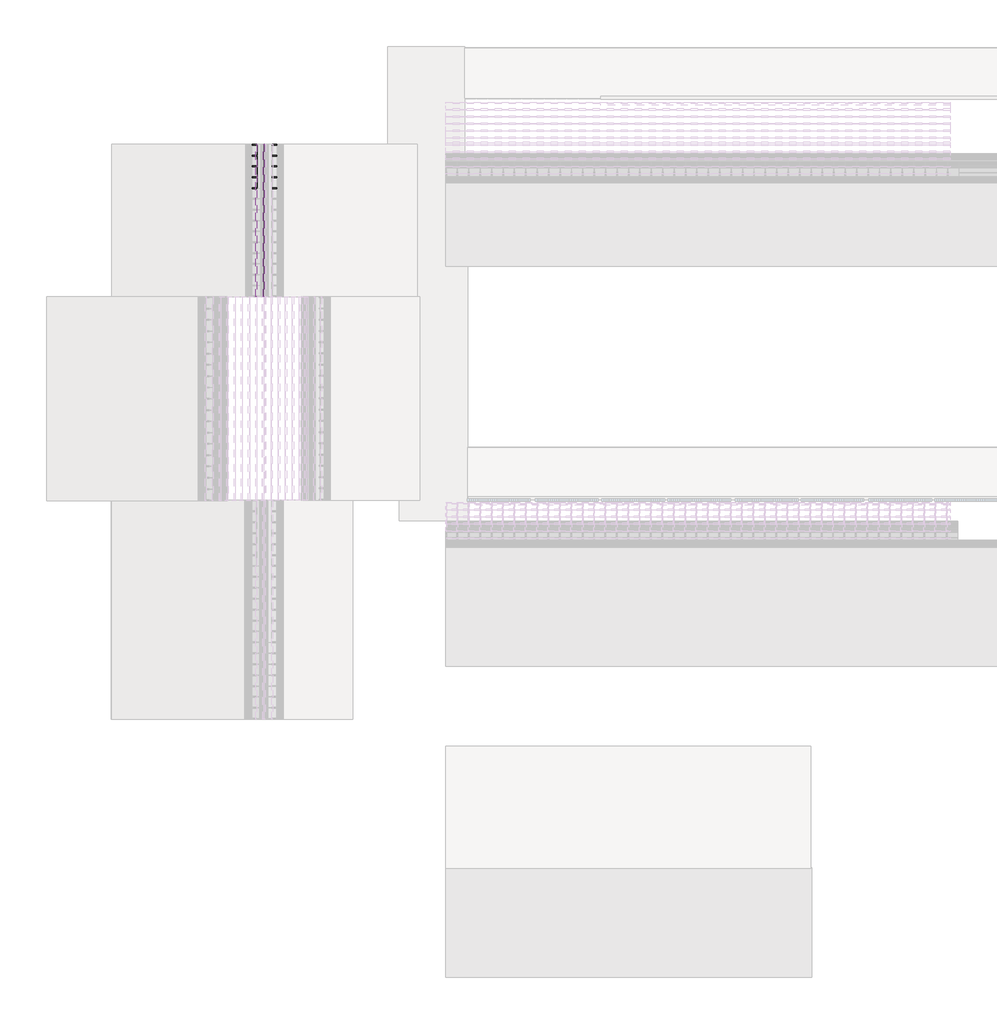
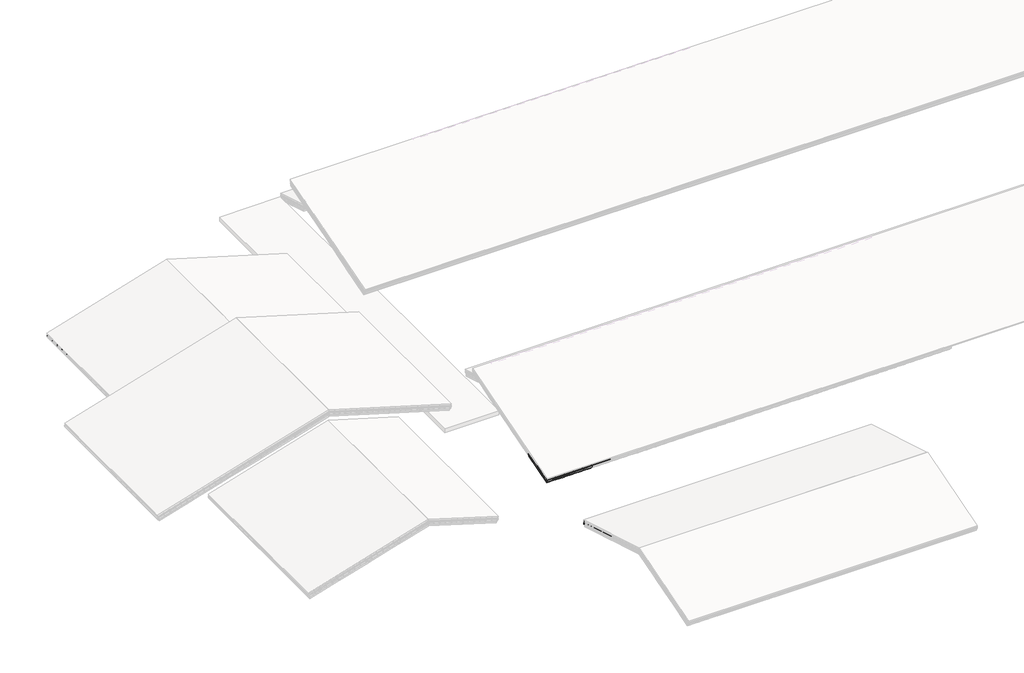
# One storey, part 6 of 57: 77 members, 42 plates.
"""IFC4 building model written with IfcOpenShell, lengths in millimetres."""

from ifc_helpers import new_model, si_unit, origin, place, context, project, spatial, transform, mapped, element, save
from components import rectangular_mullion_59984080, rectangular_mullion_71c73389, rectangular_mullion_e3e5c75d, rectangular_mullion_4162b89b, rectangular_mullion_883ae41b, rectangular_mullion_77964d67, rectangular_mullion_b55daf23, rectangular_mullion_698b6ac7, rectangular_mullion_f617a3aa, rectangular_mullion_61a0b4b4, rectangular_mullion_caibro_e4384bba, rectangular_mullion_caibro_2ce6d6ec, rectangular_mullion_caibro_22b168a6, rectangular_mullion_caibro_469f6316, rectangular_mullion_caibro_ed0dafb1, rectangular_mullion_caibro_0a25a9c4, rectangular_mullion_caibro_d90884e6, rectangular_mullion_caibro_a2a3702c, empty_system_panel_vazio_178faf58, empty_system_panel_vazio_2c78850d, empty_system_panel_vazio_172ca776, empty_system_panel_vazio_8cae14d4, empty_system_panel_vazio_6414fa12

model = new_model("IFC4")

# Units and contexts
model_context = context("Model", 3, world=origin())
ifc_project = project(units=[si_unit("LENGTHUNIT", "METRE", prefix="MILLI")], contexts=[model_context])

# Site, building, storey
site = spatial("IfcSite", under=ifc_project)
building = spatial("IfcBuilding", under=site)
storey = spatial("IfcBuildingStorey", under=building, Name="Nível 2", Elevation=4100.0)

# Members
placement = place(None, origin())
rectangular_mullion_shape = rectangular_mullion_59984080(model_context)
element("IfcMember", 1, ObjectType="Rectangular Mullion : Ripa", at=placement, inside=storey, context=model_context, shape_type="MappedRepresentation", body=[
    mapped(rectangular_mullion_shape, transform((1776.6806519, 7422.2287521, 3376.7178042), x_axis=(0.0, 0.9578262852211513, 0.2873478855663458), y_axis=(0.0, 0.2873478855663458, -0.9578262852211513), z_axis=(-1.0, 0.0, 0.0))),
])
element("IfcMember", 2, ObjectType="Rectangular Mullion : Ripa", at=placement, inside=storey, context=model_context, shape_type="MappedRepresentation", body=[
    mapped(rectangular_mullion_shape, transform((2373.7354086, 7422.2287521, 3376.7178042), x_axis=(0.0, 0.9578262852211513, 0.2873478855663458), y_axis=(0.0, 0.2873478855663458, -0.9578262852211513), z_axis=(-1.0, 0.0, 0.0))),
])
element("IfcMember", 3, ObjectType="Rectangular Mullion : Ripa", at=placement, inside=storey, context=model_context, shape_type="MappedRepresentation", body=[
    mapped(rectangular_mullion_shape, transform((2970.790165, 7422.2287521, 3376.7178042), x_axis=(0.0, 0.9578262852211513, 0.2873478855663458), y_axis=(0.0, 0.2873478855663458, -0.9578262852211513), z_axis=(-1.0, 0.0, 0.0))),
])
element("IfcMember", 4, ObjectType="Rectangular Mullion : Ripa", at=placement, inside=storey, context=model_context, shape_type="MappedRepresentation", body=[
    mapped(rectangular_mullion_shape, transform((3567.8449214, 7422.2287521, 3376.7178042), x_axis=(0.0, 0.9578262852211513, 0.2873478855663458), y_axis=(0.0, 0.2873478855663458, -0.9578262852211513), z_axis=(-1.0, 0.0, 0.0))),
])
element("IfcMember", 5, ObjectType="Rectangular Mullion : Ripa", at=placement, inside=storey, context=model_context, shape_type="MappedRepresentation", body=[
    mapped(rectangular_mullion_shape, transform((4164.8996779, 7422.2287521, 3376.7178042), x_axis=(0.0, 0.9578262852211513, 0.2873478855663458), y_axis=(0.0, 0.2873478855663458, -0.9578262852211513), z_axis=(-1.0, 0.0, 0.0))),
])
element("IfcMember", 6, ObjectType="Rectangular Mullion : Ripa", at=placement, inside=storey, context=model_context, shape_type="MappedRepresentation", body=[
    mapped(rectangular_mullion_shape, transform((4761.9544343, 7422.2287521, 3376.7178042), x_axis=(0.0, 0.9578262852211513, 0.2873478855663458), y_axis=(0.0, 0.2873478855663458, -0.9578262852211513), z_axis=(-1.0, 0.0, 0.0))),
])
element("IfcMember", 7, ObjectType="Rectangular Mullion : Ripa", at=placement, inside=storey, context=model_context, shape_type="MappedRepresentation", body=[
    mapped(rectangular_mullion_shape, transform((1776.6806519, 7792.4060108, 3487.7709818), x_axis=(0.0, 0.9578262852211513, 0.2873478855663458), y_axis=(0.0, 0.2873478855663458, -0.9578262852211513), z_axis=(-1.0, 0.0, 0.0))),
])
element("IfcMember", 8, ObjectType="Rectangular Mullion : Ripa", at=placement, inside=storey, context=model_context, shape_type="MappedRepresentation", body=[
    mapped(rectangular_mullion_shape, transform((2373.7354086, 7792.4060108, 3487.7709818), x_axis=(0.0, 0.9578262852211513, 0.2873478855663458), y_axis=(0.0, 0.2873478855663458, -0.9578262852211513), z_axis=(-1.0, 0.0, 0.0))),
])
element("IfcMember", 9, ObjectType="Rectangular Mullion : Ripa", at=placement, inside=storey, context=model_context, shape_type="MappedRepresentation", body=[
    mapped(rectangular_mullion_shape, transform((2970.790165, 7792.4060108, 3487.7709818), x_axis=(0.0, 0.9578262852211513, 0.2873478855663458), y_axis=(0.0, 0.2873478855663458, -0.9578262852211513), z_axis=(-1.0, 0.0, 0.0))),
])
element("IfcMember", 10, ObjectType="Rectangular Mullion : Ripa", at=placement, inside=storey, context=model_context, shape_type="MappedRepresentation", body=[
    mapped(rectangular_mullion_shape, transform((3567.8449214, 7792.4060108, 3487.7709818), x_axis=(0.0, 0.9578262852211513, 0.2873478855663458), y_axis=(0.0, 0.2873478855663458, -0.9578262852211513), z_axis=(-1.0, 0.0, 0.0))),
])
element("IfcMember", 11, ObjectType="Rectangular Mullion : Ripa", at=placement, inside=storey, context=model_context, shape_type="MappedRepresentation", body=[
    mapped(rectangular_mullion_shape, transform((4164.8996779, 7792.4060108, 3487.7709818), x_axis=(0.0, 0.9578262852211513, 0.2873478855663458), y_axis=(0.0, 0.2873478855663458, -0.9578262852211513), z_axis=(-1.0, 0.0, 0.0))),
])
element("IfcMember", 12, ObjectType="Rectangular Mullion : Ripa", at=placement, inside=storey, context=model_context, shape_type="MappedRepresentation", body=[
    mapped(rectangular_mullion_shape, transform((4761.9544343, 7792.4060108, 3487.7709818), x_axis=(0.0, 0.9578262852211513, 0.2873478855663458), y_axis=(0.0, 0.2873478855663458, -0.9578262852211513), z_axis=(-1.0, 0.0, 0.0))),
])
rectangular_mullion_2_shape = rectangular_mullion_71c73389(model_context)
element("IfcMember", 13, ObjectType="Rectangular Mullion : Ripa", at=placement, inside=storey, context=model_context, shape_type="MappedRepresentation", body=[
    mapped(rectangular_mullion_2_shape, transform((2348.7354086, 7004.1601792, 3251.2972323), x_axis=(0.0, -0.9578262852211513, -0.2873478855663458), y_axis=(0.0, 0.2873478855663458, -0.9578262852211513), z_axis=(1.0, 0.0, 0.0))),
])
rectangular_mullion_3_shape = rectangular_mullion_e3e5c75d(model_context)
element("IfcMember", 14, ObjectType="Rectangular Mullion : Ripa", at=placement, inside=storey, context=model_context, shape_type="MappedRepresentation", body=[
    mapped(rectangular_mullion_3_shape, transform((2945.790165, 7004.1601792, 3251.2972323), x_axis=(0.0, -0.9578262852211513, -0.2873478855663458), y_axis=(0.0, 0.2873478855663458, -0.9578262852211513), z_axis=(1.0, 0.0, 0.0))),
])
element("IfcMember", 15, ObjectType="Rectangular Mullion : Ripa", at=placement, inside=storey, context=model_context, shape_type="MappedRepresentation", body=[
    mapped(rectangular_mullion_3_shape, transform((3542.8449214, 7004.1601792, 3251.2972323), x_axis=(0.0, -0.9578262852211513, -0.2873478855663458), y_axis=(0.0, 0.2873478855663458, -0.9578262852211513), z_axis=(1.0, 0.0, 0.0))),
])
element("IfcMember", 16, ObjectType="Rectangular Mullion : Ripa", at=placement, inside=storey, context=model_context, shape_type="MappedRepresentation", body=[
    mapped(rectangular_mullion_3_shape, transform((4139.8996779, 7004.1601792, 3251.2972323), x_axis=(0.0, -0.9578262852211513, -0.2873478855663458), y_axis=(0.0, 0.2873478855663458, -0.9578262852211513), z_axis=(1.0, 0.0, 0.0))),
])
element("IfcMember", 17, ObjectType="Rectangular Mullion : Ripa", at=placement, inside=storey, context=model_context, shape_type="MappedRepresentation", body=[
    mapped(rectangular_mullion_3_shape, transform((4736.9544343, 7004.1601792, 3251.2972323), x_axis=(0.0, -0.9578262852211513, -0.2873478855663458), y_axis=(0.0, 0.2873478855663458, -0.9578262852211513), z_axis=(1.0, 0.0, 0.0))),
])
element("IfcMember", 18, ObjectType="Rectangular Mullion : Ripa", at=placement, inside=storey, context=model_context, shape_type="MappedRepresentation", body=[
    mapped(rectangular_mullion_3_shape, transform((5334.0091907, 7004.1601792, 3251.2972323), x_axis=(0.0, -0.9578262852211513, -0.2873478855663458), y_axis=(0.0, 0.2873478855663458, -0.9578262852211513), z_axis=(1.0, 0.0, 0.0))),
])
element("IfcMember", 19, ObjectType="Rectangular Mullion : Ripa", at=placement, inside=storey, context=model_context, shape_type="MappedRepresentation", body=[
    mapped(rectangular_mullion_3_shape, transform((5931.0639471, 7004.1601792, 3251.2972323), x_axis=(0.0, -0.9578262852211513, -0.2873478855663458), y_axis=(0.0, 0.2873478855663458, -0.9578262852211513), z_axis=(1.0, 0.0, 0.0))),
])
rectangular_mullion_4_shape = rectangular_mullion_4162b89b(model_context)
element("IfcMember", 20, ObjectType="Rectangular Mullion : Terça", at=placement, inside=storey, context=model_context, shape_type="MappedRepresentation", body=[
    mapped(rectangular_mullion_4_shape, transform((2348.7354086, 7004.1601792, 3188.6553932), x_axis=(0.0, -0.9578262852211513, -0.2873478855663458), y_axis=(0.0, 0.2873478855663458, -0.9578262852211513), z_axis=(1.0, 0.0, 0.0))),
])
rectangular_mullion_5_shape = rectangular_mullion_883ae41b(model_context)
element("IfcMember", 21, ObjectType="Rectangular Mullion : Terça", at=placement, inside=storey, context=model_context, shape_type="MappedRepresentation", body=[
    mapped(rectangular_mullion_5_shape, transform((2945.790165, 7004.1601792, 3188.6553932), x_axis=(0.0, -0.9578262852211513, -0.2873478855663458), y_axis=(0.0, 0.2873478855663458, -0.9578262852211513), z_axis=(1.0, 0.0, 0.0))),
])
element("IfcMember", 22, ObjectType="Rectangular Mullion : Terça", at=placement, inside=storey, context=model_context, shape_type="MappedRepresentation", body=[
    mapped(rectangular_mullion_5_shape, transform((3542.8449214, 7004.1601792, 3188.6553932), x_axis=(0.0, -0.9578262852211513, -0.2873478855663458), y_axis=(0.0, 0.2873478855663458, -0.9578262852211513), z_axis=(1.0, 0.0, 0.0))),
])
element("IfcMember", 23, ObjectType="Rectangular Mullion : Terça", at=placement, inside=storey, context=model_context, shape_type="MappedRepresentation", body=[
    mapped(rectangular_mullion_5_shape, transform((4139.8996779, 7004.1601792, 3188.6553932), x_axis=(0.0, -0.9578262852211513, -0.2873478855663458), y_axis=(0.0, 0.2873478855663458, -0.9578262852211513), z_axis=(1.0, 0.0, 0.0))),
])
element("IfcMember", 24, ObjectType="Rectangular Mullion : Terça", at=placement, inside=storey, context=model_context, shape_type="MappedRepresentation", body=[
    mapped(rectangular_mullion_5_shape, transform((4736.9544343, 7004.1601792, 3188.6553932), x_axis=(0.0, -0.9578262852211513, -0.2873478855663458), y_axis=(0.0, 0.2873478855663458, -0.9578262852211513), z_axis=(1.0, 0.0, 0.0))),
])
rectangular_mullion_6_shape = rectangular_mullion_77964d67(model_context)
element("IfcMember", 25, ObjectType="Rectangular Mullion : Ripa", at=placement, inside=storey, context=model_context, shape_type="MappedRepresentation", body=[
    mapped(rectangular_mullion_6_shape, transform((-15319.5418258, 34350.3088684, 3157.8765877), x_axis=(0.9578262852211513, 0.0, 0.2873478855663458), y_axis=(0.2873478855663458, 0.0, -0.9578262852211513), z_axis=(0.0, 1.0, 0.0))),
])
element("IfcMember", 26, ObjectType="Rectangular Mullion : Ripa", at=placement, inside=storey, context=model_context, shape_type="MappedRepresentation", body=[
    mapped(rectangular_mullion_6_shape, transform((-14942.2383069, 34350.3088684, 3271.0676434), x_axis=(0.9578262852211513, 0.0, 0.2873478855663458), y_axis=(0.2873478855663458, 0.0, -0.9578262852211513), z_axis=(0.0, 1.0, 0.0))),
])
element("IfcMember", 27, ObjectType="Rectangular Mullion : Ripa", at=placement, inside=storey, context=model_context, shape_type="MappedRepresentation", body=[
    mapped(rectangular_mullion_6_shape, transform((-14564.934788, 34350.3088684, 3384.2586991), x_axis=(0.9578262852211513, 0.0, 0.2873478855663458), y_axis=(0.2873478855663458, 0.0, -0.9578262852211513), z_axis=(0.0, 1.0, 0.0))),
])
element("IfcMember", 28, ObjectType="Rectangular Mullion : Ripa", at=placement, inside=storey, context=model_context, shape_type="MappedRepresentation", body=[
    mapped(rectangular_mullion_6_shape, transform((-14187.6312691, 34350.3088684, 3497.4497547), x_axis=(0.9578262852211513, 0.0, 0.2873478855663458), y_axis=(0.2873478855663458, 0.0, -0.9578262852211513), z_axis=(0.0, 1.0, 0.0))),
])
element("IfcMember", 29, ObjectType="Rectangular Mullion : Ripa", at=placement, inside=storey, context=model_context, shape_type="MappedRepresentation", body=[
    mapped(rectangular_mullion_6_shape, transform((-13810.3277501, 34350.3088684, 3610.6408104), x_axis=(0.9578262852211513, 0.0, 0.2873478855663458), y_axis=(0.2873478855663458, 0.0, -0.9578262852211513), z_axis=(0.0, 1.0, 0.0))),
])
element("IfcMember", 30, ObjectType="Rectangular Mullion : Ripa", at=placement, inside=storey, context=model_context, shape_type="MappedRepresentation", body=[
    mapped(rectangular_mullion_6_shape, transform((-13433.0242312, 34350.3088684, 3723.8318661), x_axis=(0.9578262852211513, 0.0, 0.2873478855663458), y_axis=(0.2873478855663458, 0.0, -0.9578262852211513), z_axis=(0.0, 1.0, 0.0))),
])
element("IfcMember", 31, ObjectType="Rectangular Mullion : Ripa", at=placement, inside=storey, context=model_context, shape_type="MappedRepresentation", body=[
    mapped(rectangular_mullion_6_shape, transform((-13055.7207123, 34350.3088684, 3837.0229217), x_axis=(0.9578262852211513, 0.0, 0.2873478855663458), y_axis=(0.2873478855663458, 0.0, -0.9578262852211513), z_axis=(0.0, 1.0, 0.0))),
])
element("IfcMember", 32, ObjectType="Rectangular Mullion : Ripa", at=placement, inside=storey, context=model_context, shape_type="MappedRepresentation", body=[
    mapped(rectangular_mullion_6_shape, transform((-12678.4171934, 34350.3088684, 3950.2139774), x_axis=(0.9578262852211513, 0.0, 0.2873478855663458), y_axis=(0.2873478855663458, 0.0, -0.9578262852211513), z_axis=(0.0, 1.0, 0.0))),
])
element("IfcMember", 33, ObjectType="Rectangular Mullion : Ripa", at=placement, inside=storey, context=model_context, shape_type="MappedRepresentation", body=[
    mapped(rectangular_mullion_6_shape, transform((-12301.1136745, 34350.3088684, 4063.4050331), x_axis=(0.9578262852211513, 0.0, 0.2873478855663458), y_axis=(0.2873478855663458, 0.0, -0.9578262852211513), z_axis=(0.0, 1.0, 0.0))),
])
element("IfcMember", 34, ObjectType="Rectangular Mullion : Ripa", at=placement, inside=storey, context=model_context, shape_type="MappedRepresentation", body=[
    mapped(rectangular_mullion_6_shape, transform((-11923.8101556, 34350.3088684, 4176.5960888), x_axis=(0.9578262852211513, 0.0, 0.2873478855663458), y_axis=(0.2873478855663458, 0.0, -0.9578262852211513), z_axis=(0.0, 1.0, 0.0))),
])
element("IfcMember", 35, ObjectType="Rectangular Mullion : Ripa", at=placement, inside=storey, context=model_context, shape_type="MappedRepresentation", body=[
    mapped(rectangular_mullion_6_shape, transform((-11546.5066367, 34350.3088684, 4289.7871444), x_axis=(0.9578262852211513, 0.0, 0.2873478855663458), y_axis=(0.2873478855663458, 0.0, -0.9578262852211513), z_axis=(0.0, 1.0, 0.0))),
])
element("IfcMember", 36, ObjectType="Rectangular Mullion : Ripa", at=placement, inside=storey, context=model_context, shape_type="MappedRepresentation", body=[
    mapped(rectangular_mullion_6_shape, transform((-11169.2031177, 34350.3088684, 4402.9782001), x_axis=(0.9578262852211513, 0.0, 0.2873478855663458), y_axis=(0.2873478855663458, 0.0, -0.9578262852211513), z_axis=(0.0, 1.0, 0.0))),
])
element("IfcMember", 37, ObjectType="Rectangular Mullion : Ripa", at=placement, inside=storey, context=model_context, shape_type="MappedRepresentation", body=[
    mapped(rectangular_mullion_6_shape, transform((-10791.8995988, 34350.3088684, 4516.1692558), x_axis=(0.9578262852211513, 0.0, 0.2873478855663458), y_axis=(0.2873478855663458, 0.0, -0.9578262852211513), z_axis=(0.0, 1.0, 0.0))),
])
element("IfcMember", 38, ObjectType="Rectangular Mullion : Ripa", at=placement, inside=storey, context=model_context, shape_type="MappedRepresentation", body=[
    mapped(rectangular_mullion_6_shape, transform((-10414.5960799, 34350.3088684, 4629.3603115), x_axis=(0.9578262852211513, 0.0, 0.2873478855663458), y_axis=(0.2873478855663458, 0.0, -0.9578262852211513), z_axis=(0.0, 1.0, 0.0))),
])
element("IfcMember", 39, ObjectType="Rectangular Mullion : Ripa", at=placement, inside=storey, context=model_context, shape_type="MappedRepresentation", body=[
    mapped(rectangular_mullion_6_shape, transform((-10037.292561, 34350.3088684, 4742.5513671), x_axis=(0.9578262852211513, 0.0, 0.2873478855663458), y_axis=(0.2873478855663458, 0.0, -0.9578262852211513), z_axis=(0.0, 1.0, 0.0))),
])
element("IfcMember", 40, ObjectType="Rectangular Mullion : Ripa", at=placement, inside=storey, context=model_context, shape_type="MappedRepresentation", body=[
    mapped(rectangular_mullion_6_shape, transform((-9659.9890421, 34350.3088684, 4855.7424228), x_axis=(0.9578262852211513, 0.0, 0.2873478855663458), y_axis=(0.2873478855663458, 0.0, -0.9578262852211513), z_axis=(0.0, 1.0, 0.0))),
])
element("IfcMember", 41, ObjectType="Rectangular Mullion : Ripa", at=placement, inside=storey, context=model_context, shape_type="MappedRepresentation", body=[
    mapped(rectangular_mullion_6_shape, transform((-9282.6855232, 34350.3088684, 4968.9334785), x_axis=(0.9578262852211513, 0.0, 0.2873478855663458), y_axis=(0.2873478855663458, 0.0, -0.9578262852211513), z_axis=(0.0, 1.0, 0.0))),
])
element("IfcMember", 42, ObjectType="Rectangular Mullion : Ripa", at=placement, inside=storey, context=model_context, shape_type="MappedRepresentation", body=[
    mapped(rectangular_mullion_6_shape, transform((-8905.3820043, 34350.3088684, 5082.1245342), x_axis=(0.9578262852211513, 0.0, 0.2873478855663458), y_axis=(0.2873478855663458, 0.0, -0.9578262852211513), z_axis=(0.0, 1.0, 0.0))),
])
element("IfcMember", 43, ObjectType="Rectangular Mullion : Ripa", at=placement, inside=storey, context=model_context, shape_type="MappedRepresentation", body=[
    mapped(rectangular_mullion_6_shape, transform((-8528.0784854, 34350.3088684, 5195.3155898), x_axis=(0.9578262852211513, 0.0, 0.2873478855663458), y_axis=(0.2873478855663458, 0.0, -0.9578262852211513), z_axis=(0.0, 1.0, 0.0))),
])
element("IfcMember", 44, ObjectType="Rectangular Mullion : Ripa", at=placement, inside=storey, context=model_context, shape_type="MappedRepresentation", body=[
    mapped(rectangular_mullion_6_shape, transform((-8150.7749664, 34350.3088684, 5308.5066455), x_axis=(0.9578262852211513, 0.0, 0.2873478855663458), y_axis=(0.2873478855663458, 0.0, -0.9578262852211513), z_axis=(0.0, 1.0, 0.0))),
])
element("IfcMember", 45, ObjectType="Rectangular Mullion : Ripa", at=placement, inside=storey, context=model_context, shape_type="MappedRepresentation", body=[
    mapped(rectangular_mullion_6_shape, transform((-7773.4714475, 34350.3088684, 5421.6977012), x_axis=(0.9578262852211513, 0.0, 0.2873478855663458), y_axis=(0.2873478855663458, 0.0, -0.9578262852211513), z_axis=(0.0, 1.0, 0.0))),
])
rectangular_mullion_7_shape = rectangular_mullion_b55daf23(model_context)
element("IfcMember", 46, ObjectType="Rectangular Mullion : Terça", at=placement, inside=storey, context=model_context, shape_type="MappedRepresentation", body=[
    mapped(rectangular_mullion_7_shape, transform((-7773.4714475, 34350.3088684, 5296.4140231), x_axis=(0.9578262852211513, 0.0, 0.2873478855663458), y_axis=(0.2873478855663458, 0.0, -0.9578262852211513), z_axis=(0.0, 1.0, 0.0))),
])
rectangular_mullion_8_shape = rectangular_mullion_698b6ac7(model_context)
element("IfcMember", 47, ObjectType="Rectangular Mullion : Terça", at=placement, inside=storey, context=model_context, shape_type="MappedRepresentation", body=[
    mapped(rectangular_mullion_8_shape, transform((-13737.5529618, 34350.3088684, 3507.1895688), x_axis=(0.9578262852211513, 0.0, 0.2873478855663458), y_axis=(0.2873478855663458, 0.0, -0.9578262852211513), z_axis=(0.0, 1.0, 0.0))),
])
element("IfcMember", 48, ObjectType="Rectangular Mullion : Terça", at=placement, inside=storey, context=model_context, shape_type="MappedRepresentation", body=[
    mapped(rectangular_mullion_8_shape, transform((-11759.1040532, 34350.3088684, 4100.7242414), x_axis=(0.9578262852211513, 0.0, 0.2873478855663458), y_axis=(0.2873478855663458, 0.0, -0.9578262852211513), z_axis=(0.0, 1.0, 0.0))),
])
element("IfcMember", 49, ObjectType="Rectangular Mullion : Terça", at=placement, inside=storey, context=model_context, shape_type="MappedRepresentation", body=[
    mapped(rectangular_mullion_8_shape, transform((-9780.6551447, 34350.3088684, 4694.2589139), x_axis=(0.9578262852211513, 0.0, 0.2873478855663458), y_axis=(0.2873478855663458, 0.0, -0.9578262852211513), z_axis=(0.0, 1.0, 0.0))),
])
rectangular_mullion_9_shape = rectangular_mullion_f617a3aa(model_context)
element("IfcMember", 50, ObjectType="Rectangular Mullion : Terça", at=placement, inside=storey, context=model_context, shape_type="MappedRepresentation", body=[
    mapped(rectangular_mullion_9_shape, transform((1726.5285525, 2746.5740798, 2804.0969596), x_axis=(0.0, 0.9578262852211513, -0.2873478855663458), y_axis=(0.0, -0.2873478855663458, -0.9578262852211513), z_axis=(-1.0, 0.0, 0.0))),
])
rectangular_mullion_10_shape = rectangular_mullion_61a0b4b4(model_context)
element("IfcMember", 51, ObjectType="Rectangular Mullion : Ripa", at=placement, inside=storey, context=model_context, shape_type="MappedRepresentation", body=[
    mapped(rectangular_mullion_10_shape, transform((1726.5285525, 2746.5740798, 2929.3806378), x_axis=(0.0, 0.9578262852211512, -0.2873478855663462), y_axis=(0.0, -0.2873478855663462, -0.9578262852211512), z_axis=(-1.0, 0.0, 0.0))),
])
rectangular_mullion_caibro_shape = rectangular_mullion_caibro_e4384bba(model_context)
element("IfcMember", 52, ObjectType="Rectangular Mullion : Caibro", at=placement, inside=storey, context=model_context, shape_type="MappedRepresentation", body=[
    mapped(rectangular_mullion_caibro_shape, transform((2348.7354086, 7422.2287521, 3376.7178042), x_axis=(1.0, 0.0, 0.0), y_axis=(0.0, 0.2873478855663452, -0.9578262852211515), z_axis=(0.0, 0.9578262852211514, 0.28734788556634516))),
])
element("IfcMember", 53, ObjectType="Rectangular Mullion : Caibro", at=placement, inside=storey, context=model_context, shape_type="MappedRepresentation", body=[
    mapped(rectangular_mullion_caibro_shape, transform((2945.790165, 7422.2287521, 3376.7178042), x_axis=(1.0, 0.0, 0.0), y_axis=(0.0, 0.2873478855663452, -0.9578262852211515), z_axis=(0.0, 0.9578262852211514, 0.28734788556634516))),
])
element("IfcMember", 54, ObjectType="Rectangular Mullion : Caibro", at=placement, inside=storey, context=model_context, shape_type="MappedRepresentation", body=[
    mapped(rectangular_mullion_caibro_shape, transform((3542.8449214, 7422.2287521, 3376.7178042), x_axis=(1.0, 0.0, 0.0), y_axis=(0.0, 0.2873478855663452, -0.9578262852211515), z_axis=(0.0, 0.9578262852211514, 0.28734788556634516))),
])
element("IfcMember", 55, ObjectType="Rectangular Mullion : Caibro", at=placement, inside=storey, context=model_context, shape_type="MappedRepresentation", body=[
    mapped(rectangular_mullion_caibro_shape, transform((4139.8996779, 7422.2287521, 3376.7178042), x_axis=(1.0, 0.0, 0.0), y_axis=(0.0, 0.2873478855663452, -0.9578262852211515), z_axis=(0.0, 0.9578262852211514, 0.28734788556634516))),
])
element("IfcMember", 56, ObjectType="Rectangular Mullion : Caibro", at=placement, inside=storey, context=model_context, shape_type="MappedRepresentation", body=[
    mapped(rectangular_mullion_caibro_shape, transform((4736.9544343, 7422.2287521, 3376.7178042), x_axis=(1.0, 0.0, 0.0), y_axis=(0.0, 0.2873478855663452, -0.9578262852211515), z_axis=(0.0, 0.9578262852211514, 0.28734788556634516))),
])
element("IfcMember", 57, ObjectType="Rectangular Mullion : Caibro", at=placement, inside=storey, context=model_context, shape_type="MappedRepresentation", body=[
    mapped(rectangular_mullion_caibro_shape, transform((5334.0091907, 7422.2287521, 3376.7178042), x_axis=(1.0, 0.0, 0.0), y_axis=(0.0, 0.2873478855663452, -0.9578262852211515), z_axis=(0.0, 0.9578262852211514, 0.28734788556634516))),
])
element("IfcMember", 58, ObjectType="Rectangular Mullion : Caibro", at=placement, inside=storey, context=model_context, shape_type="MappedRepresentation", body=[
    mapped(rectangular_mullion_caibro_shape, transform((2348.7354086, 7792.4060108, 3487.7709818), x_axis=(1.0, 0.0, 0.0), y_axis=(0.0, 0.2873478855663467, -0.9578262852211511), z_axis=(0.0, 0.9578262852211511, 0.2873478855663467))),
])
element("IfcMember", 59, ObjectType="Rectangular Mullion : Caibro", at=placement, inside=storey, context=model_context, shape_type="MappedRepresentation", body=[
    mapped(rectangular_mullion_caibro_shape, transform((2945.790165, 7792.4060108, 3487.7709818), x_axis=(1.0, 0.0, 0.0), y_axis=(0.0, 0.2873478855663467, -0.9578262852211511), z_axis=(0.0, 0.9578262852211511, 0.2873478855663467))),
])
element("IfcMember", 60, ObjectType="Rectangular Mullion : Caibro", at=placement, inside=storey, context=model_context, shape_type="MappedRepresentation", body=[
    mapped(rectangular_mullion_caibro_shape, transform((3542.8449214, 7792.4060108, 3487.7709818), x_axis=(1.0, 0.0, 0.0), y_axis=(0.0, 0.2873478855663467, -0.9578262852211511), z_axis=(0.0, 0.9578262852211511, 0.2873478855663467))),
])
element("IfcMember", 61, ObjectType="Rectangular Mullion : Caibro", at=placement, inside=storey, context=model_context, shape_type="MappedRepresentation", body=[
    mapped(rectangular_mullion_caibro_shape, transform((4139.8996779, 7792.4060108, 3487.7709818), x_axis=(1.0, 0.0, 0.0), y_axis=(0.0, 0.2873478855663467, -0.9578262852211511), z_axis=(0.0, 0.9578262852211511, 0.2873478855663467))),
])
element("IfcMember", 62, ObjectType="Rectangular Mullion : Caibro", at=placement, inside=storey, context=model_context, shape_type="MappedRepresentation", body=[
    mapped(rectangular_mullion_caibro_shape, transform((4736.9544343, 7792.4060108, 3487.7709818), x_axis=(1.0, 0.0, 0.0), y_axis=(0.0, 0.2873478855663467, -0.9578262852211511), z_axis=(0.0, 0.9578262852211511, 0.2873478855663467))),
])
element("IfcMember", 63, ObjectType="Rectangular Mullion : Caibro", at=placement, inside=storey, context=model_context, shape_type="MappedRepresentation", body=[
    mapped(rectangular_mullion_caibro_shape, transform((5334.0091907, 7792.4060108, 3487.7709818), x_axis=(1.0, 0.0, 0.0), y_axis=(0.0, 0.2873478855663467, -0.9578262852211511), z_axis=(0.0, 0.9578262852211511, 0.2873478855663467))),
])
rectangular_mullion_caibro_2_shape = rectangular_mullion_caibro_2ce6d6ec(model_context)
element("IfcMember", 64, ObjectType="Rectangular Mullion : Caibro", at=placement, inside=storey, context=model_context, shape_type="MappedRepresentation", body=[
    mapped(rectangular_mullion_caibro_2_shape, transform((1726.6806519, 7004.1601792, 3251.2972323), x_axis=(-1.0, 0.0, 0.0), y_axis=(0.0, 0.2873478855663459, -0.9578262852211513), z_axis=(0.0, -0.9578262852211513, -0.2873478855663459))),
])
rectangular_mullion_caibro_3_shape = rectangular_mullion_caibro_22b168a6(model_context)
element("IfcMember", 65, ObjectType="Rectangular Mullion : Caibro", at=placement, inside=storey, context=model_context, shape_type="MappedRepresentation", body=[
    mapped(rectangular_mullion_caibro_3_shape, transform((1726.6806519, 7422.2287521, 3376.7178042), x_axis=(-1.0, 0.0, 0.0), y_axis=(0.0, 0.2873478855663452, -0.9578262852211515), z_axis=(0.0, -0.9578262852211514, -0.28734788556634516))),
])
element("IfcMember", 66, ObjectType="Rectangular Mullion : Caibro", at=placement, inside=storey, context=model_context, shape_type="MappedRepresentation", body=[
    mapped(rectangular_mullion_caibro_3_shape, transform((1726.6806519, 7792.4060108, 3487.7709818), x_axis=(-1.0, 0.0, 0.0), y_axis=(0.0, 0.28734788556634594, -0.9578262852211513), z_axis=(0.0, -0.9578262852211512, -0.2873478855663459))),
])
rectangular_mullion_caibro_4_shape = rectangular_mullion_caibro_469f6316(model_context)
element("IfcMember", 67, ObjectType="Rectangular Mullion : Caibro", at=placement, inside=storey, context=model_context, shape_type="MappedRepresentation", body=[
    mapped(rectangular_mullion_caibro_4_shape, transform((1726.6806519, 7004.1601792, 3188.6553932), x_axis=(-1.0, 0.0, 0.0), y_axis=(0.0, 0.28734788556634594, -0.9578262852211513), z_axis=(0.0, -0.9578262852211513, -0.28734788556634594))),
])
rectangular_mullion_caibro_5_shape = rectangular_mullion_caibro_ed0dafb1(model_context)
element("IfcMember", 68, ObjectType="Rectangular Mullion : Caibro", at=placement, inside=storey, context=model_context, shape_type="MappedRepresentation", body=[
    mapped(rectangular_mullion_caibro_5_shape, transform((-15744.736659, 34350.3088684, 3030.3181378), x_axis=(0.0, 1.0, 0.0), y_axis=(0.28734788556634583, 0.0, -0.9578262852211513), z_axis=(-0.9578262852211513, 0.0, -0.28734788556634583))),
])
rectangular_mullion_caibro_6_shape = rectangular_mullion_caibro_0a25a9c4(model_context)
element("IfcMember", 69, ObjectType="Rectangular Mullion : Caibro", at=placement, inside=storey, context=model_context, shape_type="MappedRepresentation", body=[
    mapped(rectangular_mullion_caibro_6_shape, transform((-7773.4714475, 33757.4517253, 5421.6977012), x_axis=(0.0, -1.0, 0.0), y_axis=(0.28734788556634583, 0.0, -0.9578262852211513), z_axis=(0.9578262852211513, 0.0, 0.28734788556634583))),
])
element("IfcMember", 70, ObjectType="Rectangular Mullion : Caibro", at=placement, inside=storey, context=model_context, shape_type="MappedRepresentation", body=[
    mapped(rectangular_mullion_caibro_6_shape, transform((-7773.4714475, 33189.5945824, 5421.6977012), x_axis=(0.0, -1.0, 0.0), y_axis=(0.28734788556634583, 0.0, -0.9578262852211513), z_axis=(0.9578262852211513, 0.0, 0.28734788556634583))),
])
element("IfcMember", 71, ObjectType="Rectangular Mullion : Caibro", at=placement, inside=storey, context=model_context, shape_type="MappedRepresentation", body=[
    mapped(rectangular_mullion_caibro_6_shape, transform((-7773.4714475, 32621.7374396, 5421.6977012), x_axis=(0.0, -1.0, 0.0), y_axis=(0.28734788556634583, 0.0, -0.9578262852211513), z_axis=(0.9578262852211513, 0.0, 0.28734788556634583))),
])
element("IfcMember", 72, ObjectType="Rectangular Mullion : Caibro", at=placement, inside=storey, context=model_context, shape_type="MappedRepresentation", body=[
    mapped(rectangular_mullion_caibro_6_shape, transform((-7773.4714475, 32053.8802968, 5421.6977012), x_axis=(0.0, -1.0, 0.0), y_axis=(0.28734788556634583, 0.0, -0.9578262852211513), z_axis=(0.9578262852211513, 0.0, 0.28734788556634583))),
])
rectangular_mullion_caibro_7_shape = rectangular_mullion_caibro_d90884e6(model_context)
element("IfcMember", 73, ObjectType="Rectangular Mullion : Caibro", at=placement, inside=storey, context=model_context, shape_type="MappedRepresentation", body=[
    mapped(rectangular_mullion_caibro_7_shape, transform((-7773.4714475, 34350.3088684, 5421.6977012), x_axis=(0.0, 1.0, 0.0), y_axis=(-0.287347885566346, 0.0, -0.9578262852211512), z_axis=(-0.9578262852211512, 0.0, 0.287347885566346))),
])
rectangular_mullion_caibro_8_shape = rectangular_mullion_caibro_a2a3702c(model_context)
element("IfcMember", 74, ObjectType="Rectangular Mullion : Caibro", at=placement, inside=storey, context=model_context, shape_type="MappedRepresentation", body=[
    mapped(rectangular_mullion_caibro_8_shape, transform((-7773.4714475, 32053.8802968, 5421.6977012), x_axis=(0.0, 1.0, 0.0), y_axis=(-0.287347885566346, 0.0, -0.9578262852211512), z_axis=(-0.9578262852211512, 0.0, 0.287347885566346))),
])
element("IfcMember", 75, ObjectType="Rectangular Mullion : Caibro", at=placement, inside=storey, context=model_context, shape_type="MappedRepresentation", body=[
    mapped(rectangular_mullion_caibro_8_shape, transform((-7773.4714475, 32621.7374396, 5421.6977012), x_axis=(0.0, 1.0, 0.0), y_axis=(-0.287347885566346, 0.0, -0.9578262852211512), z_axis=(-0.9578262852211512, 0.0, 0.287347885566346))),
])
element("IfcMember", 76, ObjectType="Rectangular Mullion : Caibro", at=placement, inside=storey, context=model_context, shape_type="MappedRepresentation", body=[
    mapped(rectangular_mullion_caibro_8_shape, transform((-7773.4714475, 33189.5945824, 5421.6977012), x_axis=(0.0, 1.0, 0.0), y_axis=(-0.287347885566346, 0.0, -0.9578262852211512), z_axis=(-0.9578262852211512, 0.0, 0.287347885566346))),
])
element("IfcMember", 77, ObjectType="Rectangular Mullion : Caibro", at=placement, inside=storey, context=model_context, shape_type="MappedRepresentation", body=[
    mapped(rectangular_mullion_caibro_8_shape, transform((-7773.4714475, 33757.4517253, 5421.6977012), x_axis=(0.0, 1.0, 0.0), y_axis=(-0.287347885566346, 0.0, -0.9578262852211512), z_axis=(-0.9578262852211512, 0.0, 0.287347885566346))),
])

# Plates
empty_system_panel_vazio_shape = empty_system_panel_vazio_178faf58(model_context)
element("IfcPlate", 78, ObjectType="Empty System Panel : Vazio", at=placement, inside=storey, context=model_context, shape_type="MappedRepresentation", body=[
    mapped(empty_system_panel_vazio_shape, transform((2050.2080302, 7052.0514934, 3265.6646266), x_axis=(1.0, 0.0, 0.0), y_axis=(0.0, 0.2873478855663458, -0.9578262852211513), z_axis=(0.0, 0.9578262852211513, 0.2873478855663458))),
])
element("IfcPlate", 79, ObjectType="Empty System Panel : Vazio", at=placement, inside=storey, context=model_context, shape_type="MappedRepresentation", body=[
    mapped(empty_system_panel_vazio_shape, transform((2647.2627868, 7052.0514934, 3265.6646266), x_axis=(1.0, 0.0, 0.0), y_axis=(0.0, 0.2873478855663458, -0.9578262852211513), z_axis=(0.0, 0.9578262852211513, 0.2873478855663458))),
])
element("IfcPlate", 80, ObjectType="Empty System Panel : Vazio", at=placement, inside=storey, context=model_context, shape_type="MappedRepresentation", body=[
    mapped(empty_system_panel_vazio_shape, transform((3244.3175432, 7052.0514934, 3265.6646266), x_axis=(1.0, 0.0, 0.0), y_axis=(0.0, 0.2873478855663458, -0.9578262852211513), z_axis=(0.0, 0.9578262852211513, 0.2873478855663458))),
])
element("IfcPlate", 81, ObjectType="Empty System Panel : Vazio", at=placement, inside=storey, context=model_context, shape_type="MappedRepresentation", body=[
    mapped(empty_system_panel_vazio_shape, transform((3841.3722996, 7052.0514934, 3265.6646266), x_axis=(1.0, 0.0, 0.0), y_axis=(0.0, 0.2873478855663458, -0.9578262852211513), z_axis=(0.0, 0.9578262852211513, 0.2873478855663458))),
])
element("IfcPlate", 82, ObjectType="Empty System Panel : Vazio", at=placement, inside=storey, context=model_context, shape_type="MappedRepresentation", body=[
    mapped(empty_system_panel_vazio_shape, transform((4438.4270561, 7052.0514934, 3265.6646266), x_axis=(1.0, 0.0, 0.0), y_axis=(0.0, 0.2873478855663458, -0.9578262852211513), z_axis=(0.0, 0.9578262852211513, 0.2873478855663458))),
])
element("IfcPlate", 83, ObjectType="Empty System Panel : Vazio", at=placement, inside=storey, context=model_context, shape_type="MappedRepresentation", body=[
    mapped(empty_system_panel_vazio_shape, transform((5035.4818125, 7052.0514934, 3265.6646266), x_axis=(1.0, 0.0, 0.0), y_axis=(0.0, 0.2873478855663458, -0.9578262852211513), z_axis=(0.0, 0.9578262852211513, 0.2873478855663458))),
])
element("IfcPlate", 84, ObjectType="Empty System Panel : Vazio", at=placement, inside=storey, context=model_context, shape_type="MappedRepresentation", body=[
    mapped(empty_system_panel_vazio_shape, transform((5632.5365689, 7052.0514934, 3265.6646266), x_axis=(1.0, 0.0, 0.0), y_axis=(0.0, 0.2873478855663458, -0.9578262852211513), z_axis=(0.0, 0.9578262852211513, 0.2873478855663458))),
])
element("IfcPlate", 85, ObjectType="Empty System Panel : Vazio", at=placement, inside=storey, context=model_context, shape_type="MappedRepresentation", body=[
    mapped(empty_system_panel_vazio_shape, transform((2050.2080302, 7422.2287521, 3376.7178042), x_axis=(1.0, 0.0, 0.0), y_axis=(0.0, 0.2873478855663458, -0.9578262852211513), z_axis=(0.0, 0.9578262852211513, 0.2873478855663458))),
])
element("IfcPlate", 86, ObjectType="Empty System Panel : Vazio", at=placement, inside=storey, context=model_context, shape_type="MappedRepresentation", body=[
    mapped(empty_system_panel_vazio_shape, transform((2647.2627868, 7422.2287521, 3376.7178042), x_axis=(1.0, 0.0, 0.0), y_axis=(0.0, 0.2873478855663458, -0.9578262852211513), z_axis=(0.0, 0.9578262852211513, 0.2873478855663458))),
])
element("IfcPlate", 87, ObjectType="Empty System Panel : Vazio", at=placement, inside=storey, context=model_context, shape_type="MappedRepresentation", body=[
    mapped(empty_system_panel_vazio_shape, transform((3244.3175432, 7422.2287521, 3376.7178042), x_axis=(1.0, 0.0, 0.0), y_axis=(0.0, 0.2873478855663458, -0.9578262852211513), z_axis=(0.0, 0.9578262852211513, 0.2873478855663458))),
])
element("IfcPlate", 88, ObjectType="Empty System Panel : Vazio", at=placement, inside=storey, context=model_context, shape_type="MappedRepresentation", body=[
    mapped(empty_system_panel_vazio_shape, transform((3841.3722996, 7422.2287521, 3376.7178042), x_axis=(1.0, 0.0, 0.0), y_axis=(0.0, 0.2873478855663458, -0.9578262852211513), z_axis=(0.0, 0.9578262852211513, 0.2873478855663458))),
])
element("IfcPlate", 89, ObjectType="Empty System Panel : Vazio", at=placement, inside=storey, context=model_context, shape_type="MappedRepresentation", body=[
    mapped(empty_system_panel_vazio_shape, transform((4438.4270561, 7422.2287521, 3376.7178042), x_axis=(1.0, 0.0, 0.0), y_axis=(0.0, 0.2873478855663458, -0.9578262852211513), z_axis=(0.0, 0.9578262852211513, 0.2873478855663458))),
])
element("IfcPlate", 90, ObjectType="Empty System Panel : Vazio", at=placement, inside=storey, context=model_context, shape_type="MappedRepresentation", body=[
    mapped(empty_system_panel_vazio_shape, transform((5035.4818125, 7422.2287521, 3376.7178042), x_axis=(1.0, 0.0, 0.0), y_axis=(0.0, 0.2873478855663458, -0.9578262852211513), z_axis=(0.0, 0.9578262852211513, 0.2873478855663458))),
])
element("IfcPlate", 91, ObjectType="Empty System Panel : Vazio", at=placement, inside=storey, context=model_context, shape_type="MappedRepresentation", body=[
    mapped(empty_system_panel_vazio_shape, transform((5632.5365689, 7422.2287521, 3376.7178042), x_axis=(1.0, 0.0, 0.0), y_axis=(0.0, 0.2873478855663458, -0.9578262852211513), z_axis=(0.0, 0.9578262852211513, 0.2873478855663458))),
])
element("IfcPlate", 92, ObjectType="Empty System Panel : Vazio", at=placement, inside=storey, context=model_context, shape_type="MappedRepresentation", body=[
    mapped(empty_system_panel_vazio_shape, transform((2050.2080302, 7792.4060108, 3487.7709818), x_axis=(1.0, 0.0, 0.0), y_axis=(0.0, 0.2873478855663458, -0.9578262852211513), z_axis=(0.0, 0.9578262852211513, 0.2873478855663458))),
])
element("IfcPlate", 93, ObjectType="Empty System Panel : Vazio", at=placement, inside=storey, context=model_context, shape_type="MappedRepresentation", body=[
    mapped(empty_system_panel_vazio_shape, transform((2647.2627868, 7792.4060108, 3487.7709818), x_axis=(1.0, 0.0, 0.0), y_axis=(0.0, 0.2873478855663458, -0.9578262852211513), z_axis=(0.0, 0.9578262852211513, 0.2873478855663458))),
])
element("IfcPlate", 94, ObjectType="Empty System Panel : Vazio", at=placement, inside=storey, context=model_context, shape_type="MappedRepresentation", body=[
    mapped(empty_system_panel_vazio_shape, transform((3244.3175432, 7792.4060108, 3487.7709818), x_axis=(1.0, 0.0, 0.0), y_axis=(0.0, 0.2873478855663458, -0.9578262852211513), z_axis=(0.0, 0.9578262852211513, 0.2873478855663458))),
])
element("IfcPlate", 95, ObjectType="Empty System Panel : Vazio", at=placement, inside=storey, context=model_context, shape_type="MappedRepresentation", body=[
    mapped(empty_system_panel_vazio_shape, transform((3841.3722996, 7792.4060108, 3487.7709818), x_axis=(1.0, 0.0, 0.0), y_axis=(0.0, 0.2873478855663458, -0.9578262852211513), z_axis=(0.0, 0.9578262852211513, 0.2873478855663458))),
])
element("IfcPlate", 96, ObjectType="Empty System Panel : Vazio", at=placement, inside=storey, context=model_context, shape_type="MappedRepresentation", body=[
    mapped(empty_system_panel_vazio_shape, transform((4438.4270561, 7792.4060108, 3487.7709818), x_axis=(1.0, 0.0, 0.0), y_axis=(0.0, 0.2873478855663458, -0.9578262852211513), z_axis=(0.0, 0.9578262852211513, 0.2873478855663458))),
])
element("IfcPlate", 97, ObjectType="Empty System Panel : Vazio", at=placement, inside=storey, context=model_context, shape_type="MappedRepresentation", body=[
    mapped(empty_system_panel_vazio_shape, transform((5035.4818125, 7792.4060108, 3487.7709818), x_axis=(1.0, 0.0, 0.0), y_axis=(0.0, 0.2873478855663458, -0.9578262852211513), z_axis=(0.0, 0.9578262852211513, 0.2873478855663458))),
])
element("IfcPlate", 98, ObjectType="Empty System Panel : Vazio", at=placement, inside=storey, context=model_context, shape_type="MappedRepresentation", body=[
    mapped(empty_system_panel_vazio_shape, transform((5632.5365689, 7792.4060108, 3487.7709818), x_axis=(1.0, 0.0, 0.0), y_axis=(0.0, 0.2873478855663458, -0.9578262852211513), z_axis=(0.0, 0.9578262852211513, 0.2873478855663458))),
])
empty_system_panel_vazio_2_shape = empty_system_panel_vazio_2c78850d(model_context)
element("IfcPlate", 99, ObjectType="Empty System Panel : Vazio", at=placement, inside=storey, context=model_context, shape_type="MappedRepresentation", body=[
    mapped(empty_system_panel_vazio_2_shape, transform((2050.2080302, 7061.6297563, 3205.8962664), x_axis=(1.0, 0.0, 0.0), y_axis=(0.0, 0.2873478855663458, -0.9578262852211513), z_axis=(0.0, 0.9578262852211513, 0.2873478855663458))),
])
element("IfcPlate", 100, ObjectType="Empty System Panel : Vazio", at=placement, inside=storey, context=model_context, shape_type="MappedRepresentation", body=[
    mapped(empty_system_panel_vazio_2_shape, transform((2647.2627868, 7061.6297563, 3205.8962664), x_axis=(1.0, 0.0, 0.0), y_axis=(0.0, 0.2873478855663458, -0.9578262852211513), z_axis=(0.0, 0.9578262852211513, 0.2873478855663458))),
])
element("IfcPlate", 101, ObjectType="Empty System Panel : Vazio", at=placement, inside=storey, context=model_context, shape_type="MappedRepresentation", body=[
    mapped(empty_system_panel_vazio_2_shape, transform((3244.3175432, 7061.6297563, 3205.8962664), x_axis=(1.0, 0.0, 0.0), y_axis=(0.0, 0.2873478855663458, -0.9578262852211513), z_axis=(0.0, 0.9578262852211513, 0.2873478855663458))),
])
element("IfcPlate", 102, ObjectType="Empty System Panel : Vazio", at=placement, inside=storey, context=model_context, shape_type="MappedRepresentation", body=[
    mapped(empty_system_panel_vazio_2_shape, transform((3841.3722996, 7061.6297563, 3205.8962664), x_axis=(1.0, 0.0, 0.0), y_axis=(0.0, 0.2873478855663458, -0.9578262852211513), z_axis=(0.0, 0.9578262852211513, 0.2873478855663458))),
])
element("IfcPlate", 103, ObjectType="Empty System Panel : Vazio", at=placement, inside=storey, context=model_context, shape_type="MappedRepresentation", body=[
    mapped(empty_system_panel_vazio_2_shape, transform((4438.4270561, 7061.6297563, 3205.8962664), x_axis=(1.0, 0.0, 0.0), y_axis=(0.0, 0.2873478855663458, -0.9578262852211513), z_axis=(0.0, 0.9578262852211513, 0.2873478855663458))),
])
empty_system_panel_vazio_3_shape = empty_system_panel_vazio_172ca776(model_context)
element("IfcPlate", 104, ObjectType="Empty System Panel : Vazio", at=placement, inside=storey, context=model_context, shape_type="MappedRepresentation", body=[
    mapped(empty_system_panel_vazio_3_shape, transform((-15744.736659, 34041.3802968, 3030.3181378), x_axis=(0.0, -1.0, 0.0), y_axis=(0.2873478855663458, 0.0, -0.9578262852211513), z_axis=(0.9578262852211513, 0.0, 0.2873478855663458))),
])
element("IfcPlate", 105, ObjectType="Empty System Panel : Vazio", at=placement, inside=storey, context=model_context, shape_type="MappedRepresentation", body=[
    mapped(empty_system_panel_vazio_3_shape, transform((-15744.736659, 33473.5231538, 3030.3181378), x_axis=(0.0, -1.0, 0.0), y_axis=(0.2873478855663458, 0.0, -0.9578262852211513), z_axis=(0.9578262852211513, 0.0, 0.2873478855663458))),
])
element("IfcPlate", 106, ObjectType="Empty System Panel : Vazio", at=placement, inside=storey, context=model_context, shape_type="MappedRepresentation", body=[
    mapped(empty_system_panel_vazio_3_shape, transform((-15744.736659, 32905.666011, 3030.3181378), x_axis=(0.0, -1.0, 0.0), y_axis=(0.2873478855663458, 0.0, -0.9578262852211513), z_axis=(0.9578262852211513, 0.0, 0.2873478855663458))),
])
element("IfcPlate", 107, ObjectType="Empty System Panel : Vazio", at=placement, inside=storey, context=model_context, shape_type="MappedRepresentation", body=[
    mapped(empty_system_panel_vazio_3_shape, transform((-15744.736659, 32337.8088682, 3030.3181378), x_axis=(0.0, -1.0, 0.0), y_axis=(0.2873478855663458, 0.0, -0.9578262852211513), z_axis=(0.9578262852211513, 0.0, 0.2873478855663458))),
])
empty_system_panel_vazio_4_shape = empty_system_panel_vazio_8cae14d4(model_context)
element("IfcPlate", 108, ObjectType="Empty System Panel : Vazio", at=placement, inside=storey, context=model_context, shape_type="MappedRepresentation", body=[
    mapped(empty_system_panel_vazio_4_shape, transform((-434.0406319, 30350.3088684, 3219.8684565), x_axis=(0.0, 1.0, 0.0), y_axis=(-0.287347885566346, 0.0, -0.9578262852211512), z_axis=(-0.9578262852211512, 0.0, 0.287347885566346))),
])
element("IfcPlate", 109, ObjectType="Empty System Panel : Vazio", at=placement, inside=storey, context=model_context, shape_type="MappedRepresentation", body=[
    mapped(empty_system_panel_vazio_4_shape, transform((-801.0121727, 30350.3088684, 3329.9599187), x_axis=(0.0, 1.0, 0.0), y_axis=(-0.287347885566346, 0.0, -0.9578262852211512), z_axis=(-0.9578262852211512, 0.0, 0.287347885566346))),
])
empty_system_panel_vazio_5_shape = empty_system_panel_vazio_6414fa12(model_context)
element("IfcPlate", 110, ObjectType="Empty System Panel : Vazio", at=placement, inside=storey, context=model_context, shape_type="MappedRepresentation", body=[
    mapped(empty_system_panel_vazio_5_shape, transform((7421.8410526, 2746.5740798, 2929.3806378), x_axis=(-1.0, 0.0, 0.0), y_axis=(0.0, -0.2873478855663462, -0.9578262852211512), z_axis=(0.0, -0.9578262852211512, 0.2873478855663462))),
])
element("IfcPlate", 111, ObjectType="Empty System Panel : Vazio", at=placement, inside=storey, context=model_context, shape_type="MappedRepresentation", body=[
    mapped(empty_system_panel_vazio_5_shape, transform((6824.9660526, 2746.5740798, 2929.3806378), x_axis=(-1.0, 0.0, 0.0), y_axis=(0.0, -0.2873478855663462, -0.9578262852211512), z_axis=(0.0, -0.9578262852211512, 0.2873478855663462))),
])
element("IfcPlate", 112, ObjectType="Empty System Panel : Vazio", at=placement, inside=storey, context=model_context, shape_type="MappedRepresentation", body=[
    mapped(empty_system_panel_vazio_5_shape, transform((6228.0910526, 2746.5740798, 2929.3806378), x_axis=(-1.0, 0.0, 0.0), y_axis=(0.0, -0.2873478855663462, -0.9578262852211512), z_axis=(0.0, -0.9578262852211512, 0.2873478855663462))),
])
element("IfcPlate", 113, ObjectType="Empty System Panel : Vazio", at=placement, inside=storey, context=model_context, shape_type="MappedRepresentation", body=[
    mapped(empty_system_panel_vazio_5_shape, transform((5631.2160527, 2746.5740798, 2929.3806378), x_axis=(-1.0, 0.0, 0.0), y_axis=(0.0, -0.2873478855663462, -0.9578262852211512), z_axis=(0.0, -0.9578262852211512, 0.2873478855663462))),
])
element("IfcPlate", 114, ObjectType="Empty System Panel : Vazio", at=placement, inside=storey, context=model_context, shape_type="MappedRepresentation", body=[
    mapped(empty_system_panel_vazio_5_shape, transform((5034.3410527, 2746.5740798, 2929.3806378), x_axis=(-1.0, 0.0, 0.0), y_axis=(0.0, -0.2873478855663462, -0.9578262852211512), z_axis=(0.0, -0.9578262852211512, 0.2873478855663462))),
])
element("IfcPlate", 115, ObjectType="Empty System Panel : Vazio", at=placement, inside=storey, context=model_context, shape_type="MappedRepresentation", body=[
    mapped(empty_system_panel_vazio_5_shape, transform((4437.4660527, 2746.5740798, 2929.3806378), x_axis=(-1.0, 0.0, 0.0), y_axis=(0.0, -0.2873478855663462, -0.9578262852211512), z_axis=(0.0, -0.9578262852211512, 0.2873478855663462))),
])
element("IfcPlate", 116, ObjectType="Empty System Panel : Vazio", at=placement, inside=storey, context=model_context, shape_type="MappedRepresentation", body=[
    mapped(empty_system_panel_vazio_5_shape, transform((3840.5910527, 2746.5740798, 2929.3806378), x_axis=(-1.0, 0.0, 0.0), y_axis=(0.0, -0.2873478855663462, -0.9578262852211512), z_axis=(0.0, -0.9578262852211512, 0.2873478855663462))),
])
element("IfcPlate", 117, ObjectType="Empty System Panel : Vazio", at=placement, inside=storey, context=model_context, shape_type="MappedRepresentation", body=[
    mapped(empty_system_panel_vazio_5_shape, transform((3243.7160527, 2746.5740798, 2929.3806378), x_axis=(-1.0, 0.0, 0.0), y_axis=(0.0, -0.2873478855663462, -0.9578262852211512), z_axis=(0.0, -0.9578262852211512, 0.2873478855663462))),
])
element("IfcPlate", 118, ObjectType="Empty System Panel : Vazio", at=placement, inside=storey, context=model_context, shape_type="MappedRepresentation", body=[
    mapped(empty_system_panel_vazio_5_shape, transform((2646.8410527, 2746.5740798, 2929.3806378), x_axis=(-1.0, 0.0, 0.0), y_axis=(0.0, -0.2873478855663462, -0.9578262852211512), z_axis=(0.0, -0.9578262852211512, 0.2873478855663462))),
])
element("IfcPlate", 119, ObjectType="Empty System Panel : Vazio", at=placement, inside=storey, context=model_context, shape_type="MappedRepresentation", body=[
    mapped(empty_system_panel_vazio_5_shape, transform((2049.9660526, 2746.5740798, 2929.3806378), x_axis=(-1.0, 0.0, 0.0), y_axis=(0.0, -0.2873478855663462, -0.9578262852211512), z_axis=(0.0, -0.9578262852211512, 0.2873478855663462))),
])

save(model, "model.ifc")
